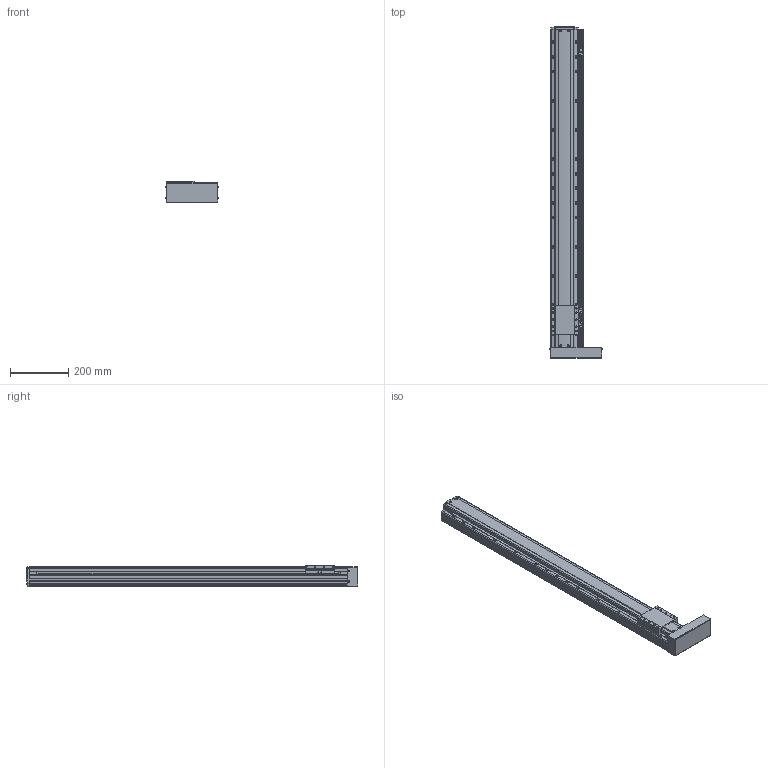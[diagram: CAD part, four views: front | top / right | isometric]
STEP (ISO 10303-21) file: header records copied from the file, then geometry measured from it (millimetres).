
FILE_DESCRIPTION(('STEP AP214'),'1');
FILE_NAME('Z:/Web/3D/PSA95/STP/PSA95-900 (3D)/PSA95ㅁㅁ-900PR+3SR.stp','2014-07-03T00:56:52',(' '),(' '),'Spatial InterOp 3D',' ',' ');
FILE_SCHEMA(('automotive_design'));
Length unit declared in the file: millimetre
Products named in the file (41): BASE; RRCV; 스크루 : Round - M4.0 x 10.0; 너트 : Square - M10.0 x 220.7419; RR1500; FRCV-090; 스크루 : Round - M4.0 x 6.0; SLBL-PA90; MOTOR PLATE COVER; 스크루 : Round - M3.0 x 6.0; EE-SX674; SBK-SX674-352; M3.0 x 6.0; SRL-16x17-380L; SGD-PA95; 스크루 : Round - M3.0 x 8.0
Bounding box: 179.13 x 1136.5 x 74 mm (x, y, z)
Volume: 6418946.6 mm3; surface area: 746860.1 mm2
Topology: 41 solids, 41 shells, 2492 faces, 6654 edges, 4262 vertices
Faces by surface type: plane 1416, cylinder 739, cone 237, sphere 62, bspline 24, torus 14
Entity records: 100052 total; most frequent: CARTESIAN_POINT 16636, DIRECTION 13248, ORIENTED_EDGE 13004, EDGE_CURVE 6502, AXIS2_PLACEMENT_3D 4428, LINE 4392, VECTOR 4392, VERTEX_POINT 4262
